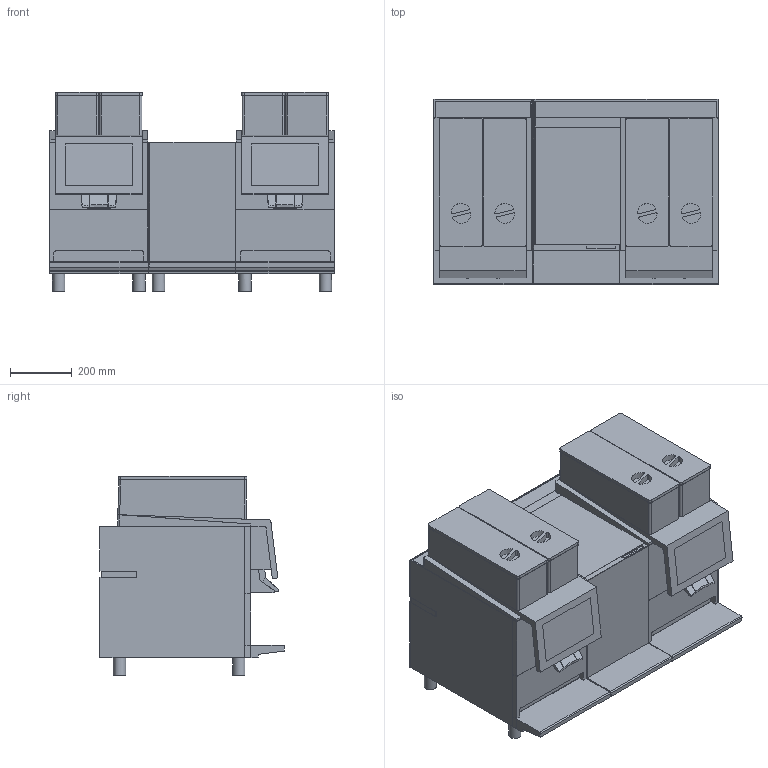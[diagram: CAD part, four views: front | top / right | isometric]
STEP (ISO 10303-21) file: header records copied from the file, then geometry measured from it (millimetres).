
FILE_DESCRIPTION(/* description */ ('Unknown'),/* implementation_level */ '2;1');
FILE_NAME(/* name */ 'HM_BW4-TwinTower',/* time_stamp */ '2026-08-18T06:25:46+02:00',/* author */ ('Unknown'),/* organization */ ('Unknown'),/* preprocessor_version */ 'ST-DEVELOPER v20',/* originating_system */ 'Solid Edge',/* authorisation */ 'Unknown');
FILE_SCHEMA (('AUTOMOTIVE_DESIGN {1 0 10303 214 3 1 1}'));
Length unit declared in the file: millimetre
Products named in the file (3): HM_BW4-TwinTower; HM_BW4-CTM-RL; HM_BW4-CT(M)
Assembly tree (2 placements, depth 2):
  HM_BW4-TwinTower
    HM_BW4-CTM-RL
    HM_BW4-CT(M)
Bounding box: 925.3 x 599.39 x 645.65 mm (x, y, z)
Volume: 238116294.2 mm3; surface area: 3944808.5 mm2
Topology: 2 solids, 2 shells, 552 faces, 1518 edges, 974 vertices
Faces by surface type: plane 402, cylinder 142, sphere 8
Full cylindrical faces by diameter (mm): 40 x10
Entity records: 21217 total; most frequent: CARTESIAN_POINT 3019, ORIENTED_EDGE 2990, DIRECTION 2924, EDGE_CURVE 1495, LINE 1176, VECTOR 1176, VERTEX_POINT 969, AXIS2_PLACEMENT_3D 874
